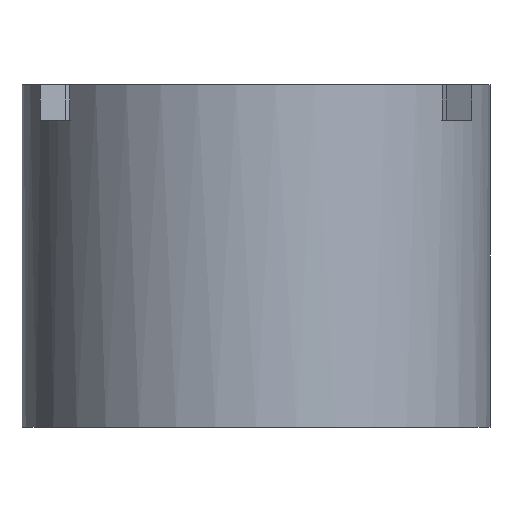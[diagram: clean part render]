
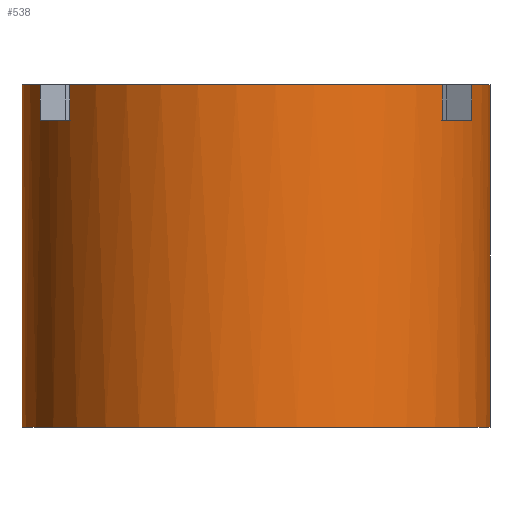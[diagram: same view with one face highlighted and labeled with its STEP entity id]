
A CAD part, front view. The second image highlights one B-rep face of the part: STEP entity #538.
In plain terms, the highlighted cylindrical face has radius 34.671 mm (diameter 69.342 mm), a partial arc.
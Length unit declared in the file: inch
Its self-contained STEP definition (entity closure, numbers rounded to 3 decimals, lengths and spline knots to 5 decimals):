
#25 = VECTOR ( 'NONE', #92, 39.37008 ) ;
#27 = CARTESIAN_POINT ( 'NONE',  ( 0., 0., 1.79 ) ) ;
#45 = ORIENTED_EDGE ( 'NONE', *, *, #339, .F. ) ;
#68 = CIRCLE ( 'NONE', #758, 1.365 ) ;
#73 = ORIENTED_EDGE ( 'NONE', *, *, #744, .F. ) ;
#79 = CARTESIAN_POINT ( 'NONE',  ( 1.25851, -0.52857, 2. ) ) ;
#81 = VECTOR ( 'NONE', #830, 39.37008 ) ;
#92 = DIRECTION ( 'NONE',  ( 0., 0., -1. ) ) ;
#101 = VERTEX_POINT ( 'NONE', #79 ) ;
#104 = DIRECTION ( 'NONE',  ( 0., 0., -1. ) ) ;
#110 = DIRECTION ( 'NONE',  ( 0., 0., 1. ) ) ;
#121 = DIRECTION ( 'NONE',  ( 0., 0., 1. ) ) ;
#209 = CARTESIAN_POINT ( 'NONE',  ( 1.08701, -0.82562, 1.79 ) ) ;
#214 = CARTESIAN_POINT ( 'NONE',  ( -1.08701, -0.82562, 2. ) ) ;
#224 = DIRECTION ( 'NONE',  ( 1., 0., 0. ) ) ;
#227 = DIRECTION ( 'NONE',  ( -1., 0., 0. ) ) ;
#244 = DIRECTION ( 'NONE',  ( 0., 0., 1. ) ) ;
#256 = VECTOR ( 'NONE', #104, 39.37008 ) ;
#270 = VERTEX_POINT ( 'NONE', #370 ) ;
#307 = DIRECTION ( 'NONE',  ( 0., 0., -1. ) ) ;
#309 = DIRECTION ( 'NONE',  ( 0., 0., -1. ) ) ;
#310 = CARTESIAN_POINT ( 'NONE',  ( 0., 0., 2. ) ) ;
#339 = EDGE_CURVE ( 'NONE', #1153, #446, #552, .T. ) ;
#362 = EDGE_CURVE ( 'Defeatured_0_10+Defeatured_0_1+Defeatured_0_14+Defeatured_0_15', #686, #746, #726, .T. ) ;
#370 = CARTESIAN_POINT ( 'NONE',  ( 1.08701, -0.82562, 2. ) ) ;
#372 = EDGE_CURVE ( 'Defeatured_0_2+Defeatured_0_1+Defeatured_0_15+Defeatured_0_6', #101, #1153, #512, .T. ) ;
#376 = LINE ( 'NONE', #638, #25 ) ;
#394 = DIRECTION ( 'NONE',  ( 0., 0., 1. ) ) ;
#396 = EDGE_CURVE ( 'Defeatured_0_1+Defeatured_0_13+Defeatured_0_2+Defeatured_0_8', #718, #1116, #421, .T. ) ;
#401 = CARTESIAN_POINT ( 'NONE',  ( 1.25851, -0.52857, 1.79 ) ) ;
#404 = VERTEX_POINT ( 'NONE', #496 ) ;
#421 = LINE ( 'NONE', #501, #256 ) ;
#436 = VECTOR ( 'NONE', #307, 39.37008 ) ;
#438 = CARTESIAN_POINT ( 'NONE',  ( 0., 0., 2. ) ) ;
#446 = VERTEX_POINT ( 'NONE', #608 ) ;
#448 = ORIENTED_EDGE ( 'NONE', *, *, #396, .T. ) ;
#450 = AXIS2_PLACEMENT_3D ( 'NONE', #940, #1137, #858 ) ;
#464 = ORIENTED_EDGE ( 'NONE', *, *, #564, .F. ) ;
#482 = CARTESIAN_POINT ( 'NONE',  ( -1.25851, -0.52857, 2. ) ) ;
#496 = CARTESIAN_POINT ( 'NONE',  ( -1.365, 0., 0. ) ) ;
#500 = CARTESIAN_POINT ( 'NONE',  ( 1.365, 0., 2. ) ) ;
#501 = CARTESIAN_POINT ( 'NONE',  ( -1.08701, -0.82562, 2. ) ) ;
#507 = CARTESIAN_POINT ( 'NONE',  ( -1.25851, -0.52857, 1.79 ) ) ;
#512 = CIRCLE ( 'NONE', #450, 1.365 ) ;
#538 = ADVANCED_FACE ( 'Defeatured_0_1', ( #935 ), #566, .T. ) ;
#550 = DIRECTION ( 'NONE',  ( 0., 0., -1. ) ) ;
#552 = LINE ( 'NONE', #591, #436 ) ;
#564 = EDGE_CURVE ( 'Defeatured_0_2+Defeatured_0_1+Defeatured_0_7+Defeatured_0_12', #812, #930, #1188, .T. ) ;
#566 = CYLINDRICAL_SURFACE ( 'NONE', #698, 1.365 ) ;
#578 = AXIS2_PLACEMENT_3D ( 'NONE', #438, #244, #1172 ) ;
#591 = CARTESIAN_POINT ( 'NONE',  ( 1.365, 0., 2. ) ) ;
#608 = CARTESIAN_POINT ( 'NONE',  ( 1.365, 0., 0. ) ) ;
#628 = LINE ( 'NONE', #1200, #81 ) ;
#630 = ORIENTED_EDGE ( 'NONE', *, *, #1189, .F. ) ;
#638 = CARTESIAN_POINT ( 'NONE',  ( 1.25851, -0.52857, 2. ) ) ;
#647 = ORIENTED_EDGE ( 'NONE', *, *, #793, .F. ) ;
#663 = ORIENTED_EDGE ( 'NONE', *, *, #923, .T. ) ;
#683 = EDGE_CURVE ( 'Defeatured_0_1+Defeatured_0_3+Defeatured_0_3+Defeatured_0_3', #404, #446, #68, .T. ) ;
#686 = VERTEX_POINT ( 'NONE', #209 ) ;
#695 = CARTESIAN_POINT ( 'NONE',  ( 0., 0., 0. ) ) ;
#698 = AXIS2_PLACEMENT_3D ( 'NONE', #1063, #967, #227 ) ;
#699 = DIRECTION ( 'NONE',  ( 1., 0., 0. ) ) ;
#718 = VERTEX_POINT ( 'NONE', #214 ) ;
#726 = CIRCLE ( 'NONE', #1199, 1.365 ) ;
#727 = CIRCLE ( 'NONE', #962, 1.365 ) ;
#744 = EDGE_CURVE ( 'Defeatured_0_2+Defeatured_0_1+Defeatured_0_13+Defeatured_0_14', #718, #270, #727, .T. ) ;
#746 = VERTEX_POINT ( 'NONE', #401 ) ;
#758 = AXIS2_PLACEMENT_3D ( 'NONE', #695, #121, #224 ) ;
#770 = CARTESIAN_POINT ( 'NONE',  ( 0., 0., 1.79 ) ) ;
#785 = CARTESIAN_POINT ( 'NONE',  ( -1.08701, -0.82562, 1.79 ) ) ;
#793 = EDGE_CURVE ( 'Defeatured_0_12+Defeatured_0_1+Defeatured_0_2+Defeatured_0_8', #930, #1114, #628, .T. ) ;
#806 = VECTOR ( 'NONE', #550, 39.37008 ) ;
#812 = VERTEX_POINT ( 'NONE', #1034 ) ;
#830 = DIRECTION ( 'NONE',  ( 0., 0., -1. ) ) ;
#835 = ORIENTED_EDGE ( 'NONE', *, *, #1056, .T. ) ;
#837 = LINE ( 'NONE', #915, #806 ) ;
#841 = ORIENTED_EDGE ( 'NONE', *, *, #372, .F. ) ;
#854 = DIRECTION ( 'NONE',  ( -0.5, 0.866, 0. ) ) ;
#855 = ORIENTED_EDGE ( 'NONE', *, *, #362, .F. ) ;
#858 = DIRECTION ( 'NONE',  ( 1., 0., 0. ) ) ;
#915 = CARTESIAN_POINT ( 'NONE',  ( 1.08701, -0.82562, 2. ) ) ;
#923 = EDGE_CURVE ( 'NONE', #812, #404, #994, .T. ) ;
#930 = VERTEX_POINT ( 'NONE', #482 ) ;
#935 = FACE_OUTER_BOUND ( 'NONE', #1127, .T. ) ;
#940 = CARTESIAN_POINT ( 'NONE',  ( 0., 0., 2. ) ) ;
#949 = EDGE_CURVE ( 'Defeatured_0_8+Defeatured_0_1+Defeatured_0_12+Defeatured_0_13', #1114, #1116, #1165, .T. ) ;
#962 = AXIS2_PLACEMENT_3D ( 'NONE', #310, #1159, #699 ) ;
#963 = VECTOR ( 'NONE', #309, 39.37008 ) ;
#966 = ORIENTED_EDGE ( 'NONE', *, *, #683, .T. ) ;
#967 = DIRECTION ( 'NONE',  ( 0., 0., -1. ) ) ;
#994 = LINE ( 'NONE', #1054, #963 ) ;
#1031 = AXIS2_PLACEMENT_3D ( 'NONE', #27, #394, #854 ) ;
#1034 = CARTESIAN_POINT ( 'NONE',  ( -1.365, 0., 2. ) ) ;
#1054 = CARTESIAN_POINT ( 'NONE',  ( -1.365, 0., 2. ) ) ;
#1056 = EDGE_CURVE ( 'Defeatured_0_1+Defeatured_0_15+Defeatured_0_2+Defeatured_0_10', #101, #746, #376, .T. ) ;
#1063 = CARTESIAN_POINT ( 'NONE',  ( 0., 0., 2. ) ) ;
#1114 = VERTEX_POINT ( 'NONE', #507 ) ;
#1116 = VERTEX_POINT ( 'NONE', #785 ) ;
#1127 = EDGE_LOOP ( 'NONE', ( #45, #841, #835, #855, #630, #73, #448, #1185, #647, #464, #663, #966 ) ) ;
#1137 = DIRECTION ( 'NONE',  ( 0., 0., 1. ) ) ;
#1144 = DIRECTION ( 'NONE',  ( -0.5, -0.866, 0. ) ) ;
#1153 = VERTEX_POINT ( 'NONE', #500 ) ;
#1159 = DIRECTION ( 'NONE',  ( 0., 0., 1. ) ) ;
#1165 = CIRCLE ( 'NONE', #1031, 1.365 ) ;
#1172 = DIRECTION ( 'NONE',  ( 1., 0., 0. ) ) ;
#1185 = ORIENTED_EDGE ( 'NONE', *, *, #949, .F. ) ;
#1188 = CIRCLE ( 'NONE', #578, 1.365 ) ;
#1189 = EDGE_CURVE ( 'Defeatured_0_14+Defeatured_0_1+Defeatured_0_2+Defeatured_0_10', #270, #686, #837, .T. ) ;
#1199 = AXIS2_PLACEMENT_3D ( 'NONE', #770, #110, #1144 ) ;
#1200 = CARTESIAN_POINT ( 'NONE',  ( -1.25851, -0.52857, 2. ) ) ;
